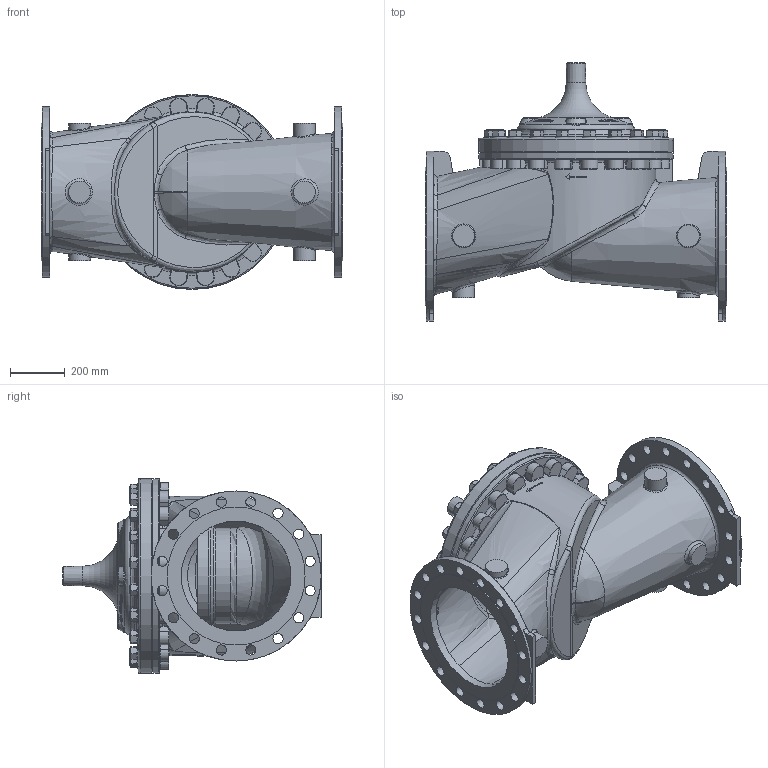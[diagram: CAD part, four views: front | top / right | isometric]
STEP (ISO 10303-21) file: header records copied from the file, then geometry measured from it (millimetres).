
FILE_DESCRIPTION(/* description */ (''),/* implementation_level */ '2;1');
FILE_NAME(/* name */ 'G:\Doc_Liberes\SymbolesCAD\Modeles_3D\FichierSTP\VanneDeBase\NGE400-25RF.stp',/* time_stamp */ '2023-08-17T15:36:55+02:00',/* author */ ('theo'),/* organization */ (''),/* preprocessor_version */ 'ST-DEVELOPER v18.1',/* originating_system */ 'Autodesk Inventor 2022',/* authorisation */ '');
FILE_SCHEMA (('AUTOMOTIVE_DESIGN { 1 0 10303 214 3 1 1 }'));
Products named in the file (1): nge400-25_Simplifier_1
Bounding box: 1100 x 941.65 x 711.2 mm (x, y, z)
Volume: 63273788.9 mm3; surface area: 6062064.7 mm2
Topology: 1 solids, 1 shells, 2133 faces, 5427 edges, 3402 vertices
Faces by surface type: plane 802, cone 499, bspline 343, cylinder 315, torus 137, sphere 37
Full cylindrical faces by diameter (mm): 28.575 x40, 32 x1, 37 x32, 57.15 x20, 70 x1, 80 x6, 319.435 x1, 336.5 x1, 378 x1, 381.5 x1, 381.508 x1, 400 x2, 503 x2, 620 x2, 685.37 x1, 687.7 x1, 710 x1, 711.2 x1
Entity records: 90601 total; most frequent: CARTESIAN_POINT 41931, ORIENTED_EDGE 10830, DIRECTION 9701, EDGE_CURVE 5415, AXIS2_PLACEMENT_3D 4236, VERTEX_POINT 3401, CIRCLE 2364, EDGE_LOOP 2355
